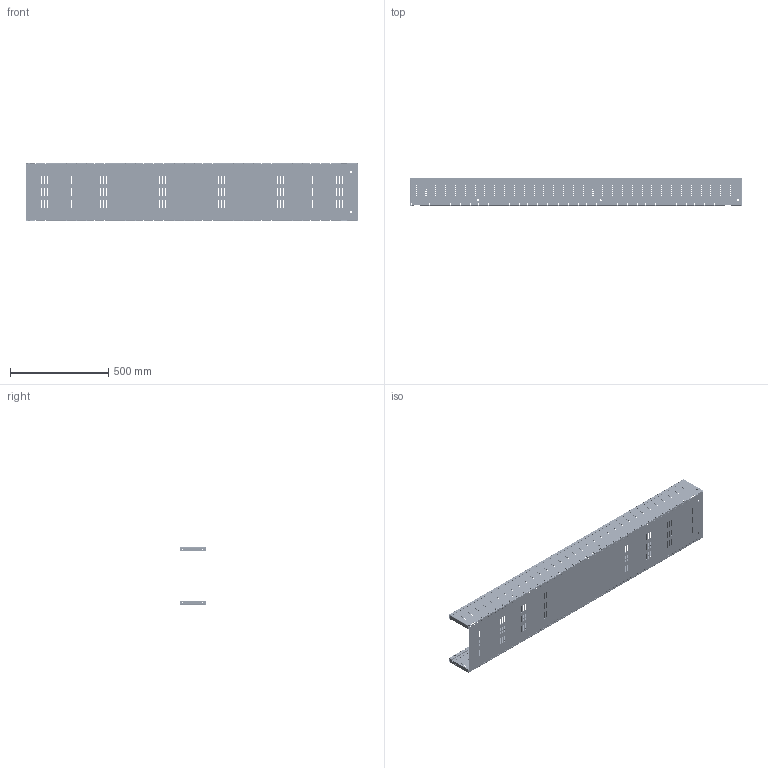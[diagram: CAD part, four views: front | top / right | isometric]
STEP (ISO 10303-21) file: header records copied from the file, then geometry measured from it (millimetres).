
FILE_DESCRIPTION(('CAx-IF Rec.Pracs.---Model Styling and Organization---1.2---2011-12-15','CAx-IF Rec.Pracs.---Geometric and Assembly Validation Properties---4.1---2014-06-16','CAx-IF Rec.Pracs.---PMI Polyline Presentation---2.0---2013-05-24'),'2;1');
FILE_NAME('R5MRGBS33M.stp','2021-05-05T12:58:41+03:00',(''),(''),'STEP Interface 4.4 by CT CoreTechnologie','3D_Evolution4.4 by CT CoreTechnologie','');
FILE_SCHEMA(('AUTOMOTIVE_DESIGN { 1 0 10303 214 1 1 1 1 }'));
Length unit declared in the file: millimetre
Products named in the file (4): R5MRGBS33M; RB.1394.00.00.0_-03; RB.1391.00.00.0_-00; RB.1391.00.00.0_-01
Assembly tree (3 placements, depth 2):
  R5MRGBS33M
    RB.1394.00.00.0_-03
    RB.1391.00.00.0_-00
    RB.1391.00.00.0_-01
Bounding box: 1690 x 143 x 295 mm (x, y, z)
Surface area: 2319655.7 mm2 (no closed solid volume)
Topology: 0 solids, 3 shells, 4116 faces, 13474 edges, 8880 vertices
Faces by surface type: cylinder 2392, plane 1724
Entity records: 154117 total; most frequent: ORIENTED_EDGE 26948, DIRECTION 26498, CARTESIAN_POINT 26474, EDGE_CURVE 13474, AXIS2_PLACEMENT_3D 8904, VERTEX_POINT 8880, VECTOR 8690, LINE 8690
